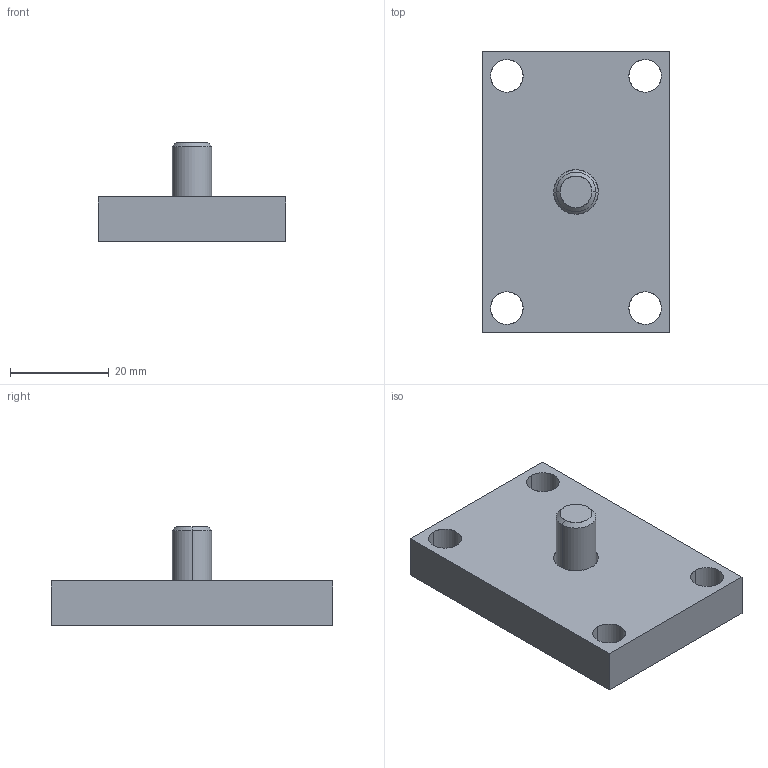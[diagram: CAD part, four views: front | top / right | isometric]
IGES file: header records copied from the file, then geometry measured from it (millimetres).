
Global section: file name: E:\UnigraphicsGraphicData\MISUMI_PRESS-PARTS\IGES\3d_bm-38_03392_r00.igs; native system: NX V5.0; preprocessor: UGS NX IGES V5.0; author: MISUMI; date: 20110105.160037; units: millimetre
Bounding box: 38 x 57 x 20 mm (x, y, z)
Surface area: 7505 mm2 (no closed solid volume)
Topology: 0 solids, 0 shells, 33 faces, 232 edges, 232 vertices
Faces by surface type: bspline 33
